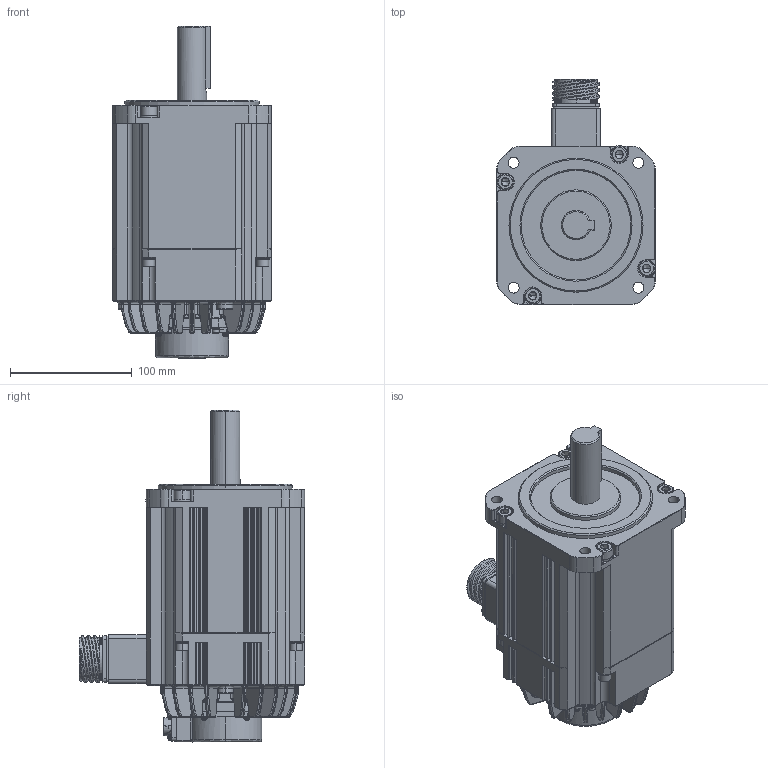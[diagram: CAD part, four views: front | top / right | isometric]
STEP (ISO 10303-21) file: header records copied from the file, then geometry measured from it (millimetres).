
FILE_DESCRIPTION (( 'STEP AP203' ), '1' );
FILE_NAME ('TSM3508N7373E722‘•”z.STEP', '2018-06-26T08:15:07', ( '' ), ( '' ), 'SwSTEP 2.0', 'SolidWorks 2017', '' );
FILE_SCHEMA (( 'CONFIG_CONTROL_DESIGN' ));
Products named in the file (2): Part22^TSM3508N7373E722装配; TSM3508N7373E722装配
Assembly tree (1 placements, depth 2):
  TSM3508N7373E722装配
    Part22^TSM3508N7373E722装配
Bounding box: 130.5 x 185.2 x 272.5 mm (x, y, z)
Volume: 2661659.7 mm3; surface area: 188220.8 mm2
Topology: 1 solids, 23 shells, 3224 faces, 8112 edges, 4936 vertices
Faces by surface type: bspline 1088, plane 1057, cylinder 822, cone 257
Entity records: 157910 total; most frequent: CARTESIAN_POINT 89311, ORIENTED_EDGE 16014, DIRECTION 11621, EDGE_CURVE 8007, VERTEX_POINT 4936, AXIS2_PLACEMENT_3D 3981, LINE 3659, VECTOR 3659
